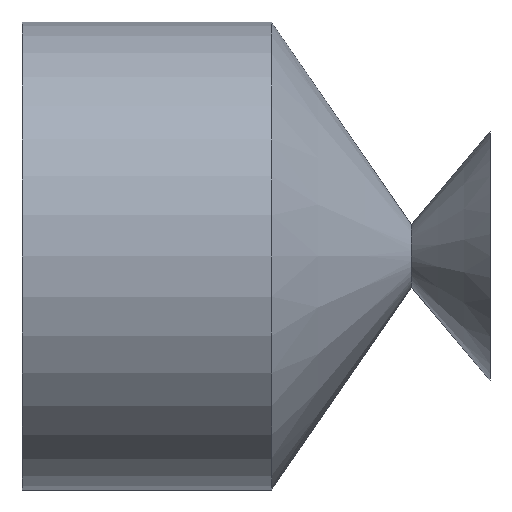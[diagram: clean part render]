
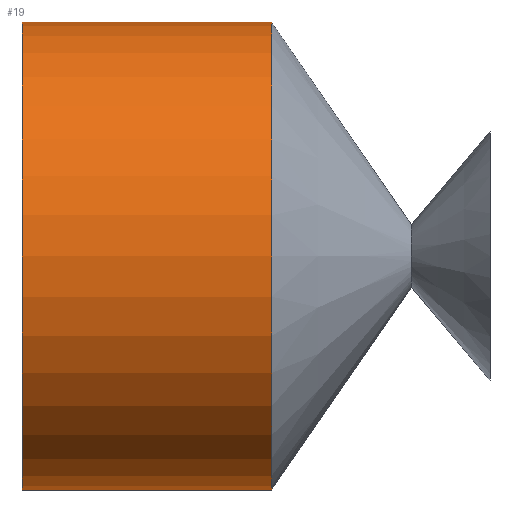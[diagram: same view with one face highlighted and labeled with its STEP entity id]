
A CAD part, left-side view. The second image highlights one B-rep face of the part: STEP entity #19.
In plain terms, the highlighted cylindrical face has radius 7.5 mm (diameter 15 mm), a partial arc.
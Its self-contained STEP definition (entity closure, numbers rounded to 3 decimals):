
#7 = CIRCLE ( 'NONE', #17, 7.5 ) ;
#8 = CARTESIAN_POINT ( 'NONE',  ( 0., 15., 7.5 ) ) ;
#9 = DIRECTION ( 'NONE',  ( 0., -1., 0. ) ) ;
#15 = CARTESIAN_POINT ( 'NONE',  ( 0., 7., -7.5 ) ) ;
#17 = AXIS2_PLACEMENT_3D ( 'NONE', #457, #212, #494 ) ;
#19 = ADVANCED_FACE ( 'NONE', ( #435 ), #77, .T. ) ;
#77 = CYLINDRICAL_SURFACE ( 'NONE', #292, 7.5 ) ;
#96 = CARTESIAN_POINT ( 'NONE',  ( 0., 0., -7.5 ) ) ;
#112 = EDGE_CURVE ( 'NONE', #263, #470, #7, .T. ) ;
#149 = VERTEX_POINT ( 'NONE', #8 ) ;
#150 = VECTOR ( 'NONE', #9, 1000. ) ;
#175 = ORIENTED_EDGE ( 'NONE', *, *, #370, .T. ) ;
#182 = CARTESIAN_POINT ( 'NONE',  ( 0., 15., 0. ) ) ;
#195 = EDGE_CURVE ( 'NONE', #149, #263, #391, .T. ) ;
#200 = DIRECTION ( 'NONE',  ( 0., -1., 0. ) ) ;
#212 = DIRECTION ( 'NONE',  ( 0., -1., 0. ) ) ;
#242 = CARTESIAN_POINT ( 'NONE',  ( 0., 0., 0. ) ) ;
#263 = VERTEX_POINT ( 'NONE', #345 ) ;
#283 = LINE ( 'NONE', #96, #150 ) ;
#290 = ORIENTED_EDGE ( 'NONE', *, *, #512, .T. ) ;
#292 = AXIS2_PLACEMENT_3D ( 'NONE', #242, #200, #523 ) ;
#294 = ORIENTED_EDGE ( 'NONE', *, *, #195, .F. ) ;
#316 = VERTEX_POINT ( 'NONE', #355 ) ;
#329 = EDGE_LOOP ( 'NONE', ( #294, #290, #175, #351 ) ) ;
#340 = DIRECTION ( 'NONE',  ( 0., 0., -1. ) ) ;
#345 = CARTESIAN_POINT ( 'NONE',  ( 0., 7., 7.5 ) ) ;
#350 = DIRECTION ( 'NONE',  ( 0., -1., 0. ) ) ;
#351 = ORIENTED_EDGE ( 'NONE', *, *, #112, .F. ) ;
#354 = AXIS2_PLACEMENT_3D ( 'NONE', #182, #350, #340 ) ;
#355 = CARTESIAN_POINT ( 'NONE',  ( 0., 15., -7.5 ) ) ;
#364 = VECTOR ( 'NONE', #464, 1000. ) ;
#367 = CIRCLE ( 'NONE', #354, 7.5 ) ;
#370 = EDGE_CURVE ( 'NONE', #316, #470, #283, .T. ) ;
#391 = LINE ( 'NONE', #462, #364 ) ;
#435 = FACE_OUTER_BOUND ( 'NONE', #329, .T. ) ;
#457 = CARTESIAN_POINT ( 'NONE',  ( 0., 7., 0. ) ) ;
#462 = CARTESIAN_POINT ( 'NONE',  ( 0., 0., 7.5 ) ) ;
#464 = DIRECTION ( 'NONE',  ( 0., -1., 0. ) ) ;
#470 = VERTEX_POINT ( 'NONE', #15 ) ;
#494 = DIRECTION ( 'NONE',  ( 0., 0., -1. ) ) ;
#512 = EDGE_CURVE ( 'NONE', #149, #316, #367, .T. ) ;
#523 = DIRECTION ( 'NONE',  ( 0., 0., -1. ) ) ;
